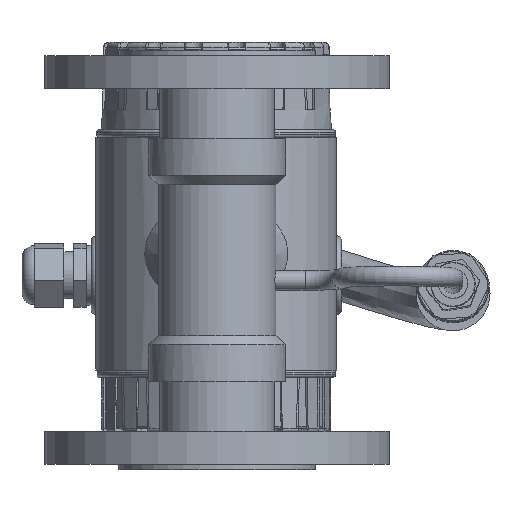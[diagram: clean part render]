
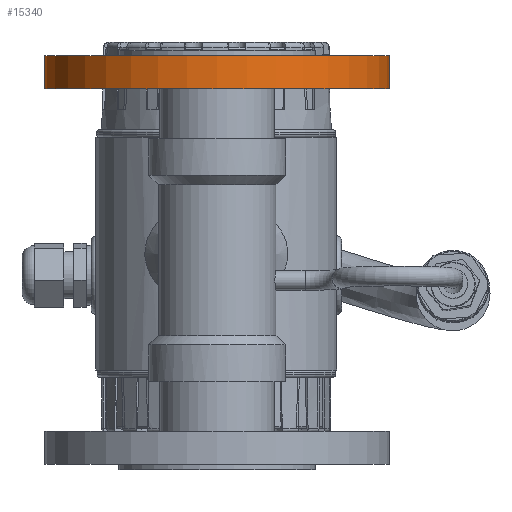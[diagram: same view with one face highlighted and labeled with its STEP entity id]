
A CAD part, front view. The second image highlights one B-rep face of the part: STEP entity #15340.
In plain terms, the highlighted cylindrical face has radius 70 mm (diameter 140 mm), a full revolution.
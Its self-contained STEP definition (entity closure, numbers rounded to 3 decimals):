
#2218=LINE('',#30017,#3349);
#3349=VECTOR('',#21503,70.);
#3664=CYLINDRICAL_SURFACE('',#17079,70.);
#4509=FACE_OUTER_BOUND('',#5486,.T.);
#5486=EDGE_LOOP('',(#13976,#13977,#13978,#13979));
#6245=CIRCLE('',#17080,70.);
#6246=CIRCLE('',#17081,70.);
#7588=VERTEX_POINT('',#30014);
#7589=VERTEX_POINT('',#30016);
#9745=EDGE_CURVE('',#7588,#7588,#6245,.T.);
#9746=EDGE_CURVE('',#7588,#7589,#2218,.T.);
#9747=EDGE_CURVE('',#7589,#7589,#6246,.T.);
#13976=ORIENTED_EDGE('',*,*,#9745,.F.);
#13977=ORIENTED_EDGE('',*,*,#9746,.T.);
#13978=ORIENTED_EDGE('',*,*,#9747,.F.);
#13979=ORIENTED_EDGE('',*,*,#9746,.F.);
#15340=ADVANCED_FACE('',(#4509),#3664,.T.);
#17079=AXIS2_PLACEMENT_3D('',#30013,#21499,#21500);
#17080=AXIS2_PLACEMENT_3D('',#30015,#21501,#21502);
#17081=AXIS2_PLACEMENT_3D('',#30018,#21504,#21505);
#21499=DIRECTION('center_axis',(0.,0.,1.));
#21500=DIRECTION('ref_axis',(-1.,0.,0.));
#21501=DIRECTION('center_axis',(0.,0.,
1.));
#21502=DIRECTION('ref_axis',(-1.,0.,0.));
#21503=DIRECTION('',(0.,0.,-1.));
#21504=DIRECTION('center_axis',(0.,0.,
-1.));
#21505=DIRECTION('ref_axis',(-1.,0.,0.));
#30013=CARTESIAN_POINT('Origin',(-376.699,203.9,289.874));
#30014=CARTESIAN_POINT('',(-306.7,203.899,303.333));
#30015=CARTESIAN_POINT('Origin',(-376.699,203.899,303.333));
#30016=CARTESIAN_POINT('',(-306.7,203.9,289.874));
#30017=CARTESIAN_POINT('',(-306.7,203.9,289.874));
#30018=CARTESIAN_POINT('Origin',(-376.699,203.9,289.874));
